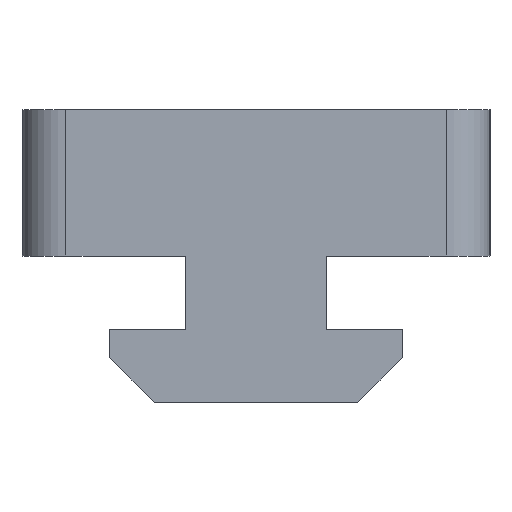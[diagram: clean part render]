
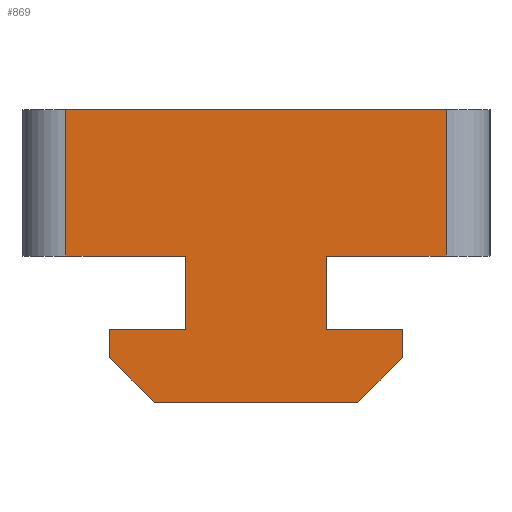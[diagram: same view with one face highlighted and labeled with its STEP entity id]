
A CAD part, left-side view. The second image highlights one B-rep face of the part: STEP entity #869.
In plain terms, the highlighted planar face has unit normal (-1, 0, 0).
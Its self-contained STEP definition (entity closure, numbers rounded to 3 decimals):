
#71=PLANE('',#943);
#102=FACE_OUTER_BOUND('',#149,.T.);
#149=EDGE_LOOP('',(#635,#636,#637,#638,#639,#640,#641,#642,#643,#644,#645,
#646,#647,#648));
#219=LINE('',#1360,#303);
#221=LINE('',#1366,#305);
#223=LINE('',#1370,#307);
#224=LINE('',#1372,#308);
#225=LINE('',#1374,#309);
#226=LINE('',#1376,#310);
#227=LINE('',#1378,#311);
#228=LINE('',#1380,#312);
#229=LINE('',#1382,#313);
#230=LINE('',#1384,#314);
#231=LINE('',#1386,#315);
#232=LINE('',#1388,#316);
#233=LINE('',#1390,#317);
#234=LINE('',#1391,#318);
#303=VECTOR('',#1064,1000.);
#305=VECTOR('',#1070,10.);
#307=VECTOR('',#1074,1000.);
#308=VECTOR('',#1075,10.);
#309=VECTOR('',#1076,1000.);
#310=VECTOR('',#1077,10.);
#311=VECTOR('',#1078,10.);
#312=VECTOR('',#1079,10.);
#313=VECTOR('',#1080,10.);
#314=VECTOR('',#1081,10.);
#315=VECTOR('',#1082,10.);
#316=VECTOR('',#1083,10.);
#317=VECTOR('',#1084,10.);
#318=VECTOR('',#1085,10.);
#424=VERTEX_POINT('',#1357);
#425=VERTEX_POINT('',#1359);
#427=VERTEX_POINT('',#1364);
#428=VERTEX_POINT('',#1369);
#429=VERTEX_POINT('',#1371);
#430=VERTEX_POINT('',#1373);
#431=VERTEX_POINT('',#1375);
#432=VERTEX_POINT('',#1377);
#433=VERTEX_POINT('',#1379);
#434=VERTEX_POINT('',#1381);
#435=VERTEX_POINT('',#1383);
#436=VERTEX_POINT('',#1385);
#437=VERTEX_POINT('',#1387);
#438=VERTEX_POINT('',#1389);
#506=EDGE_CURVE('',#424,#425,#219,.T.);
#509=EDGE_CURVE('',#427,#424,#221,.T.);
#511=EDGE_CURVE('',#428,#427,#223,.T.);
#512=EDGE_CURVE('',#429,#428,#224,.T.);
#513=EDGE_CURVE('',#430,#429,#225,.T.);
#514=EDGE_CURVE('',#430,#431,#226,.F.);
#515=EDGE_CURVE('',#431,#432,#227,.F.);
#516=EDGE_CURVE('',#433,#432,#228,.F.);
#517=EDGE_CURVE('',#434,#433,#229,.F.);
#518=EDGE_CURVE('',#435,#434,#230,.F.);
#519=EDGE_CURVE('',#436,#435,#231,.F.);
#520=EDGE_CURVE('',#437,#436,#232,.F.);
#521=EDGE_CURVE('',#437,#438,#233,.F.);
#522=EDGE_CURVE('',#438,#425,#234,.F.);
#635=ORIENTED_EDGE('',*,*,#509,.F.);
#636=ORIENTED_EDGE('',*,*,#511,.F.);
#637=ORIENTED_EDGE('',*,*,#512,.F.);
#638=ORIENTED_EDGE('',*,*,#513,.F.);
#639=ORIENTED_EDGE('',*,*,#514,.T.);
#640=ORIENTED_EDGE('',*,*,#515,.T.);
#641=ORIENTED_EDGE('',*,*,#516,.F.);
#642=ORIENTED_EDGE('',*,*,#517,.F.);
#643=ORIENTED_EDGE('',*,*,#518,.F.);
#644=ORIENTED_EDGE('',*,*,#519,.F.);
#645=ORIENTED_EDGE('',*,*,#520,.F.);
#646=ORIENTED_EDGE('',*,*,#521,.T.);
#647=ORIENTED_EDGE('',*,*,#522,.T.);
#648=ORIENTED_EDGE('',*,*,#506,.F.);
#869=ADVANCED_FACE('',(#102),#71,.F.);
#943=AXIS2_PLACEMENT_3D('',#1368,#1072,#1073);
#1064=DIRECTION('',(0.,1.,0.));
#1070=DIRECTION('',(0.,0.,-1.));
#1072=DIRECTION('center_axis',(1.,0.,0.));
#1073=DIRECTION('ref_axis',(0.,0.,-1.));
#1074=DIRECTION('',(0.,-1.,0.));
#1075=DIRECTION('',(0.,0.,1.));
#1076=DIRECTION('',(0.,1.,0.));
#1077=DIRECTION('',(0.,0.,1.));
#1078=DIRECTION('',(0.,-1.,0.));
#1079=DIRECTION('',(0.,0.,-1.));
#1080=DIRECTION('',(0.,-0.707,-0.707));
#1081=DIRECTION('',(0.,-1.,0.));
#1082=DIRECTION('',(0.,-0.707,0.707));
#1083=DIRECTION('',(0.,0.,1.));
#1084=DIRECTION('',(0.,-1.,0.));
#1085=DIRECTION('',(0.,0.,-1.));
#1357=CARTESIAN_POINT('',(0.,-6.5,0.));
#1359=CARTESIAN_POINT('',(0.,-2.4,0.));
#1360=CARTESIAN_POINT('',(0.,0.,0.));
#1364=CARTESIAN_POINT('',(0.,-6.5,5.));
#1366=CARTESIAN_POINT('',(0.,-6.5,0.));
#1368=CARTESIAN_POINT('Origin',(0.,0.,0.));
#1369=CARTESIAN_POINT('',(0.,6.5,5.));
#1370=CARTESIAN_POINT('',(0.,-8.5,5.));
#1371=CARTESIAN_POINT('',(0.,6.5,0.));
#1372=CARTESIAN_POINT('',(0.,6.5,2.5));
#1373=CARTESIAN_POINT('',(0.,2.4,0.));
#1374=CARTESIAN_POINT('',(0.,0.,0.));
#1375=CARTESIAN_POINT('',(0.,2.4,-2.5));
#1376=CARTESIAN_POINT('',(0.,2.4,0.));
#1377=CARTESIAN_POINT('',(0.,5.,-2.5));
#1378=CARTESIAN_POINT('',(0.,2.875,-2.5));
#1379=CARTESIAN_POINT('',(0.,5.,-3.479));
#1380=CARTESIAN_POINT('',(0.,5.,-0.9));
#1381=CARTESIAN_POINT('',(0.,3.479,-5.));
#1382=CARTESIAN_POINT('',(0.,4.977,-3.502));
#1383=CARTESIAN_POINT('',(0.,-3.479,-5.));
#1384=CARTESIAN_POINT('',(0.,1.875,-5.));
#1385=CARTESIAN_POINT('',(0.,-5.,-3.479));
#1386=CARTESIAN_POINT('',(0.,-3.977,-4.502));
#1387=CARTESIAN_POINT('',(0.,-5.,-2.5));
#1388=CARTESIAN_POINT('',(0.,-5.,-1.4));
#1389=CARTESIAN_POINT('',(0.,-2.4,-2.5));
#1390=CARTESIAN_POINT('',(0.,-2.875,-2.5));
#1391=CARTESIAN_POINT('',(0.,-2.4,0.));
